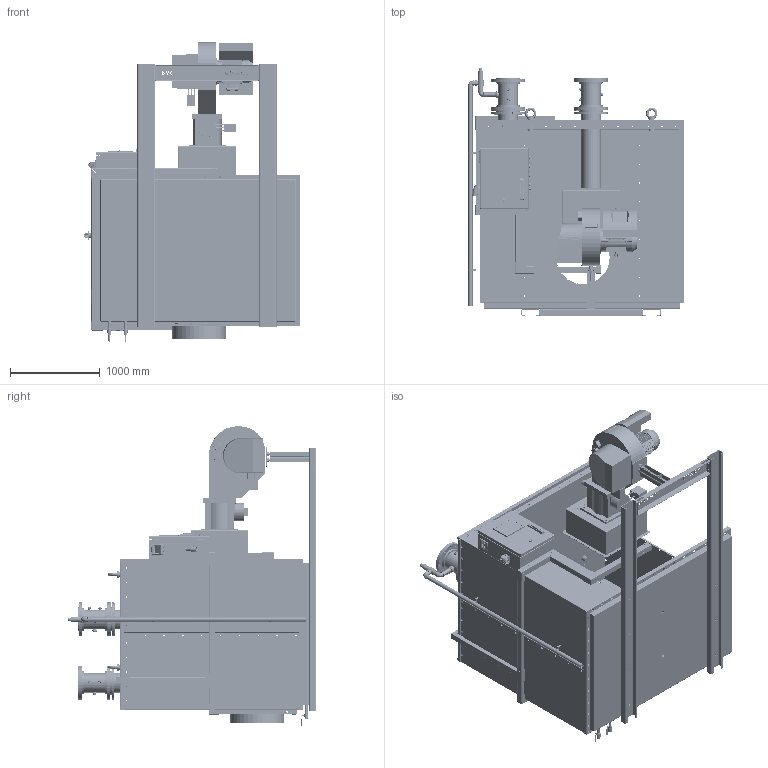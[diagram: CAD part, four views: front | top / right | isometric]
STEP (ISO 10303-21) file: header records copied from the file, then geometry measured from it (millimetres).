
FILE_DESCRIPTION (( 'STEP AP214' ), '1' );
FILE_NAME ('CBRN-SC8-V1.STEP', '2024-04-17T13:01:01', ( '' ), ( '' ), 'SwSTEP 2.0', 'SolidWorks 2020', '' );
FILE_SCHEMA (( 'AUTOMOTIVE_DESIGN' ));
Length unit declared in the file: millimetre
Products named in the file (169): CBRN-SC8-V1-01-22; RCP-412-03-27; xb4_ba31_03; AutoFlame-Controller-MK8 MM; CBRN-SC8-V1-01-18; CBRN-SC8-V1-10-05; CBRN-SC8-V1-07-02; CBRN-SC8-V1-01-02; CBRN-SC8-V1-02-05; xb4_bd21_01; CBRN-SC8-V1-01-06; RCP-412-04-07; signal lamp 22; xb4_bs84441_04; CBRN-SC8-V1-02-20; CBRN-SC8-V1-10-04; CBRN-SC8-V1-01-23_03; CBRN-SC8-V1-06-04; bmx-15-w-PG16; CBRN-SC8-V1-01-19; CBRN-SC8-V1-02-07_03; CBR-SEP-V4 (25) -02-05; CBRN-SC8-V1-01-10; CBRN-SC8-V1-01-14; PG13.5 BK; CBRN-SC8-V1-06-02; 2499419_04; xb4_bs84441_02; CBRN-SC8-V1-06; RCP-412-03-05; CBRN-SC8-V1-06-01; eyebolt580_din_Eyebolt DIN 358-M36-N; 2499419_02; CBRN-SC8-V1-02-06; CBRN-SC8-V1-04-16; CBRN-SC8-V1-02-13; CBR-SEP-V4 (25) -02-09; RCP-412-04-15; CBRN-SC8-V1-01-26; AutoFlame-Mk8-Body-Part-3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
Assembly tree (239 placements, depth 6):
  CBRN-SC8-V1
    CBRN-SC8-V1-02
      CBRN-SC8-V1-03
        CBRN-SC8-V1-04
          CBRN-SC8-V1-04-01
          CBRN-SC8-V1-04-08
          CBRN-SC8-V1-07
            CBRN-SC8-V1-07-04
            CBRN-SC8-V1-07-01
            CBRN-SC8-V1-07-02  x2
            CBRN-SC8-V1-06-06  x4
            CBRN-SC8-V1-06-14  x2
          CBRN-SC8-V1-04-12  x4
          CBRN-SC8-V1-04-16
          CBRN-SC8-V1-06
            CBRN-SC8-V1-06-04
            CBRN-SC8-V1-06-01
            CBRN-SC8-V1-06-02  x2
            CBRN-SC8-V1-06-05
            CBRN-SC8-V1-06-06  x2
            CBRN-SC8-V1-06-12
            CBRN-SC8-V1-06-07_03
            CBRN-SC8-V1-06-09  x2
            CBRN-SC8-V1-06-08
            CBRN-SC8-V1-06-13
            CBRN-SC8-V1-06-07
            CBRN-SC8-V1-06-10  x2
            CBRN-SC8-V1-06-11  x2
            CBRN-SC8-V1-06-14  x2
          CBRN-SC8-V1-04-02_03
          CBRN-SC8-V1-04-02_02
          CBRN-SC8-V1-09  x2
            CBRN-SC8-V1-09-26
            CBRN-SC8-V1-09-27
        CBRN-SC8-V1-03-07
      CBRN-SC8-V1-02-01
      CBRN-SC8-V1-02-02
      CBRN-SC8-V1-02-03
      CBRN-SC8-V1-02-04
      CBRN-SC8-V1-02-05
      CBRN-SC8-V1-02-06
      CBRN-SC8-V1-02-17  x3
      CBRN-SC8-V1-02-10  x3
      CBRN-SC8-V1-02-11  x2
      CBRN-SC8-V1-02-12  x2
      CBRN-SC8-V1-02-13  x2
      CBRN-SC8-V1-02-14  x8
      CBRN-SC8-V1-02-15  x2
      CBRN-SC8-V1-02-16  x2
      CBRN-SC8-V1-02-08-01
      CBRN-SC8-V1-02-19  x4
      CBRN-SC8-V1-02-18  x4
      CBRN-SC8-V1-02-20  x2
      CBRN-SC8-V1-02-07_03
      CBRN-SC8-V1-02-07_02
      CBRN-SC8-V1-02-09
      CBRN-SC8-V1-02-08
    CBRN-SC8-V1-01-04  x2
    CBRN-SC8-V1-01-05
    CBRN-SC8-V1-01-06
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Bounding box: 2414.26 x 2769.25 x 3337.7 mm (x, y, z)
Volume: 377909421.1 mm3; surface area: 83616532.1 mm2
Topology: 317 solids, 323 shells, 30970 faces, 83972 edges, 54220 vertices
Faces by surface type: plane 14505, bspline 8361, cylinder 6357, cone 934, torus 697, sphere 116
Entity records: 1193495 total; most frequent: CARTESIAN_POINT 550918, ORIENTED_EDGE 136866, DIRECTION 102538, EDGE_CURVE 68433, VERTEX_POINT 44245, LINE 40026, VECTOR 40026, AXIS2_PLACEMENT_3D 31256
